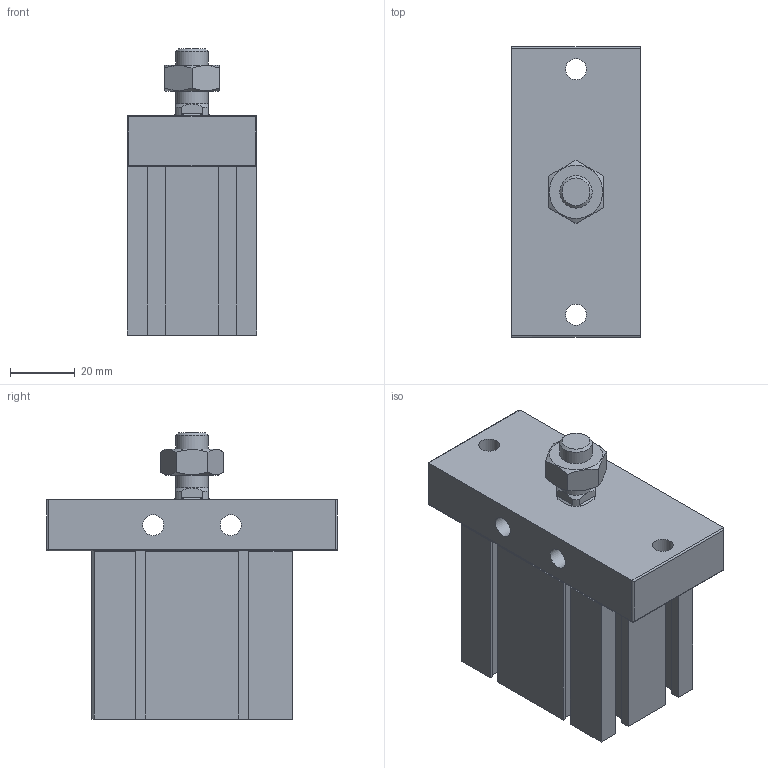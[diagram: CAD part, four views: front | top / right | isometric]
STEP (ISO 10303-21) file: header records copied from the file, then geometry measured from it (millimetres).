
FILE_DESCRIPTION((''),'2;1');
FILE_NAME('J:\3D電子目錄\氣缸\ND\ND\ND32-FBS\ND32x10-FBS.stp','2008-03-13T10:08:28',('66-2f-008'),(''),'Autodesk Inventor 11','Autodesk Inventor 11','');
FILE_SCHEMA(('AUTOMOTIVE_DESIGN { 1 0 10303 214 1 1 1 1 }'));
Length unit declared in the file: millimetre
Products named in the file (1): ND32-FBS
Bounding box: 40 x 90 x 88.5 mm (x, y, z)
Volume: 168592.4 mm3; surface area: 33102.6 mm2
Topology: 2 solids, 2 shells, 154 faces, 393 edges, 252 vertices
Faces by surface type: plane 99, cylinder 23, cone 15, bspline 14, sphere 2, torus 1
Full cylindrical faces by diameter (mm): 2.2 x2, 6.5 x2, 10 x2, 23 x1, 34 x1, 36 x1
Entity records: 4540 total; most frequent: CARTESIAN_POINT 979, ORIENTED_EDGE 710, DIRECTION 702, EDGE_CURVE 355, VECTOR 250, LINE 250, VERTEX_POINT 247, AXIS2_PLACEMENT_3D 226
